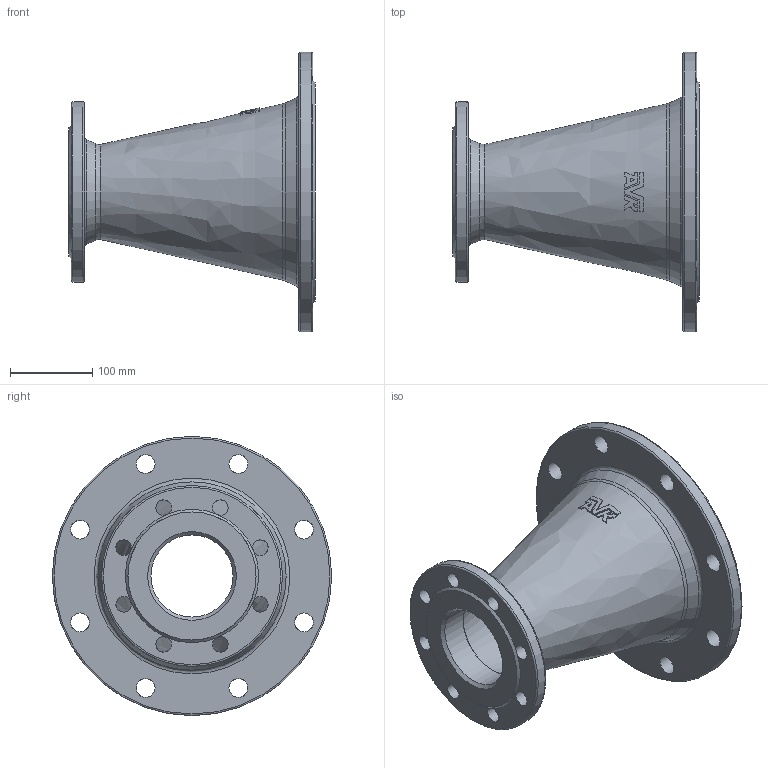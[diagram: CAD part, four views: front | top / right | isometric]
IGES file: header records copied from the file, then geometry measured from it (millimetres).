
Start section: SolidWorks IGES file using analytic representation for surfaces
Global section: file name: \\avksan2\techshare\PBM outline export from Enovia\O_712_2210_DN200_DN100_0X_REV01.igs; native system: SolidWorks 2022; preprocessor: SolidWorks 2022; author: pbm; date: 240807.140224; units: millimetre
Bounding box: 300 x 340 x 340 mm (x, y, z)
Surface area: 479768 mm2 (no closed solid volume)
Topology: 0 solids, 0 shells, 93 faces, 464 edges, 418 vertices
Faces by surface type: bspline 49, revolution 44
